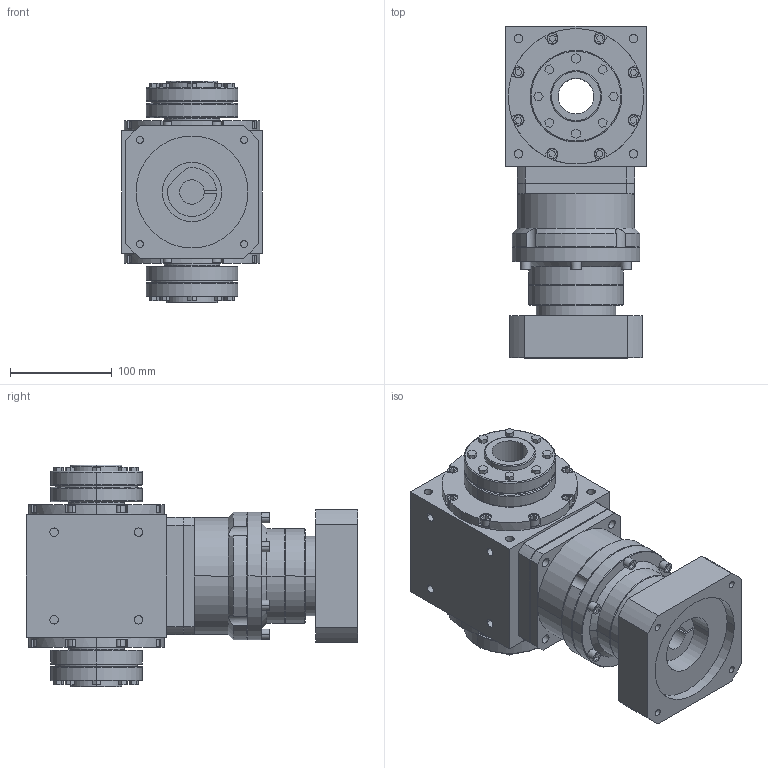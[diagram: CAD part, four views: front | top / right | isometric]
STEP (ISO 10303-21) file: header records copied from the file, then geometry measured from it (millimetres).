
FILE_DESCRIPTION (( 'STEP AP203' ), '1' );
FILE_NAME ('AAW135AS-L2-2HP 24-110-145-M8.STEP', '2024-12-24T07:37:15', ( '' ), ( '' ), 'SwSTEP 2.0', 'SolidWorks 2021', '' );
FILE_SCHEMA (( 'CONFIG_CONTROL_DESIGN' ));
Length unit declared in the file: millimetre
Products named in the file (3): AAW135AS-2HP; AAW135AS-L2-2HP 24-110-145-M8; VRB-115-L2-S2-P1 24-110-145-M8
Assembly tree (2 placements, depth 2):
  AAW135AS-L2-2HP 24-110-145-M8
    AAW135AS-2HP
    VRB-115-L2-S2-P1 24-110-145-M8
Bounding box: 138 x 326 x 218 mm (x, y, z)
Volume: 4701855.5 mm3; surface area: 337609.5 mm2
Topology: 2 solids, 2 shells, 660 faces, 1618 edges, 1059 vertices
Faces by surface type: plane 421, cylinder 191, torus 26, cone 22
Entity records: 20278 total; most frequent: CARTESIAN_POINT 3892, DIRECTION 3447, ORIENTED_EDGE 3236, EDGE_CURVE 1618, AXIS2_PLACEMENT_3D 1190, LINE 1067, VECTOR 1067, VERTEX_POINT 1059
